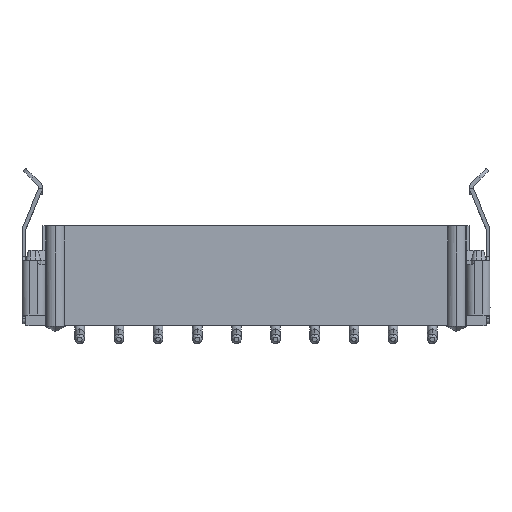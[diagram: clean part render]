
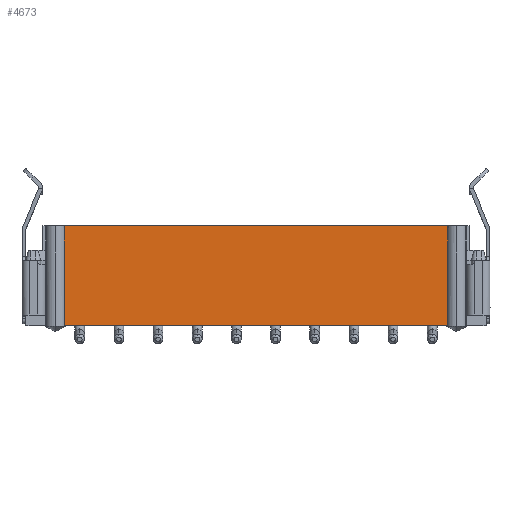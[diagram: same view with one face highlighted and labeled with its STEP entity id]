
A CAD part, top view. The second image highlights one B-rep face of the part: STEP entity #4673.
In plain terms, the highlighted planar face has unit normal (0, 0, 1).
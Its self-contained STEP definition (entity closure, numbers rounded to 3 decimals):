
#81=DIRECTION('',(-1.,0.,0.));
#82=VECTOR('',#81,19.583);
#83=CARTESIAN_POINT('',(9.792,0.,2.775));
#84=LINE('',#83,#82);
#749=DIRECTION('',(-1.,0.,0.));
#750=VECTOR('',#749,19.583);
#751=CARTESIAN_POINT('',(9.792,5.1,2.775));
#752=LINE('',#751,#750);
#893=DIRECTION('',(0.,1.,0.));
#894=VECTOR('',#893,5.1);
#895=CARTESIAN_POINT('',(-9.792,0.,2.775));
#896=LINE('',#895,#894);
#900=DIRECTION('',(0.,-1.,0.));
#901=VECTOR('',#900,5.1);
#902=CARTESIAN_POINT('',(9.792,5.1,2.775));
#903=LINE('',#902,#901);
#3865=CARTESIAN_POINT('',(9.792,0.,2.775));
#3867=VERTEX_POINT('',#3865);
#3873=CARTESIAN_POINT('',(9.792,5.1,2.775));
#3874=VERTEX_POINT('',#3873);
#3885=CARTESIAN_POINT('',(-9.792,0.,2.775));
#3887=VERTEX_POINT('',#3885);
#3893=CARTESIAN_POINT('',(-9.792,5.1,2.775));
#3894=VERTEX_POINT('',#3893);
#4660=CARTESIAN_POINT('',(10.75,0.,2.775));
#4661=DIRECTION('',(0.,0.,1.));
#4662=DIRECTION('',(-1.,0.,0.));
#4663=AXIS2_PLACEMENT_3D('',#4660,#4661,#4662);
#4664=PLANE('',#4663);
#4666=ORIENTED_EDGE('',*,*,#4665,.T.);
#4667=ORIENTED_EDGE('',*,*,#4594,.F.);
#4669=ORIENTED_EDGE('',*,*,#4668,.T.);
#4670=ORIENTED_EDGE('',*,*,#4186,.T.);
#4671=EDGE_LOOP('',(#4666,#4667,#4669,#4670));
#4672=FACE_OUTER_BOUND('',#4671,.F.);
#4186=EDGE_CURVE('',#3867,#3887,#84,.T.);
#4594=EDGE_CURVE('',#3874,#3894,#752,.T.);
#4665=EDGE_CURVE('',#3887,#3894,#896,.T.);
#4668=EDGE_CURVE('',#3874,#3867,#903,.T.);
#4673=ADVANCED_FACE('',(#4672),#4664,.T.);
